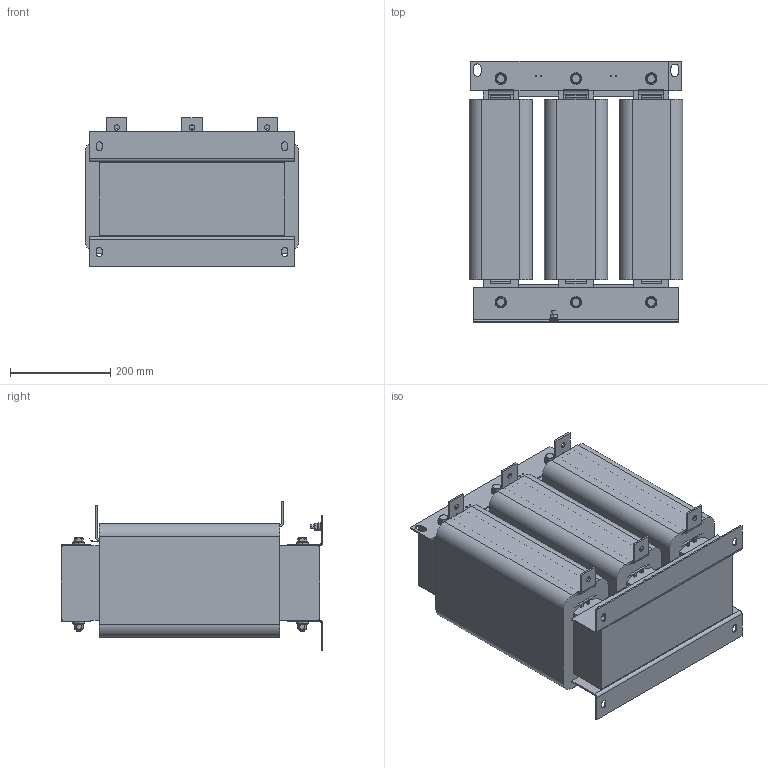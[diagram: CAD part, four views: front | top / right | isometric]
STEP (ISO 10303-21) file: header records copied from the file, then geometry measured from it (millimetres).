
FILE_DESCRIPTION((''),'2;1');
FILE_NAME('PRT0002','2021-12-11T',('ed4874'),(''),'CREO PARAMETRIC BY PTC INC, 2018220','CREO PARAMETRIC BY PTC INC, 2018220','');
FILE_SCHEMA(('AUTOMOTIVE_DESIGN { 1 0 10303 214 1 1 1 1 }'));
Length unit declared in the file: millimetre
Products named in the file (1): PRT0002
Bounding box: 426 x 522 x 297 mm (x, y, z)
Volume: 38370667.8 mm3; surface area: 1868845 mm2
Topology: 1 solids, 13 shells, 969 faces, 2572 edges, 1620 vertices
Faces by surface type: plane 504, cylinder 321, cone 144
Entity records: 31418 total; most frequent: CARTESIAN_POINT 6843, ORIENTED_EDGE 5144, DIRECTION 5066, EDGE_CURVE 2572, AXIS2_PLACEMENT_3D 1785, VERTEX_POINT 1620, VECTOR 1496, LINE 1496
